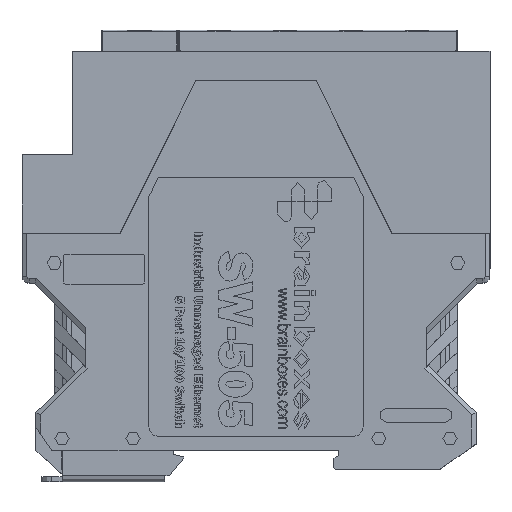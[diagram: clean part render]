
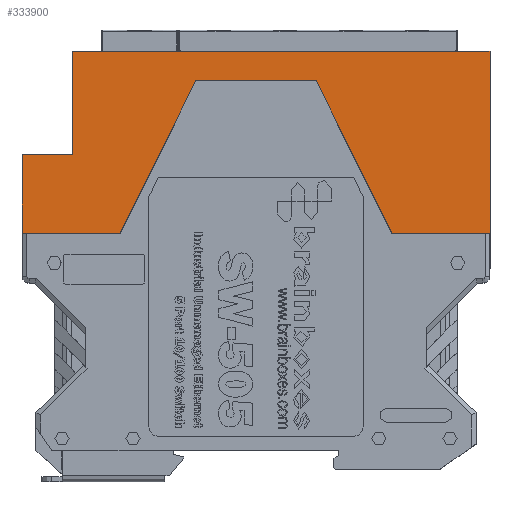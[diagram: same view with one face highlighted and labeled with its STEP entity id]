
A CAD part, top view. The second image highlights one B-rep face of the part: STEP entity #333900.
In plain terms, the highlighted planar face has unit normal (0, 0, 1).
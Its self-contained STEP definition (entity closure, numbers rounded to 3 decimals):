
#329645 = VERTEX_POINT('',#329646);
#329646 = CARTESIAN_POINT('',(45.7,2.4,18.9));
#329652 = EDGE_CURVE('',#329653,#329645,#329655,.T.);
#329653 = VERTEX_POINT('',#329654);
#329654 = CARTESIAN_POINT('',(25.,2.4,18.9));
#329655 = LINE('',#329656,#329657);
#329656 = CARTESIAN_POINT('',(-3.8,2.4,18.9));
#329657 = VECTOR('',#329658,1.);
#329658 = DIRECTION('',(1.,0.,0.));
#330165 = VERTEX_POINT('',#330166);
#330166 = CARTESIAN_POINT('',(-32.6,2.4,18.9));
#330172 = EDGE_CURVE('',#330173,#330165,#330175,.T.);
#330173 = VERTEX_POINT('',#330174);
#330174 = CARTESIAN_POINT('',(-53.3,2.4,18.9));
#330175 = LINE('',#330176,#330177);
#330176 = CARTESIAN_POINT('',(-3.8,2.4,18.9));
#330177 = VECTOR('',#330178,1.);
#330178 = DIRECTION('',(1.,0.,0.));
#330466 = VERTEX_POINT('',#330467);
#330467 = CARTESIAN_POINT('',(-53.3,19.,18.9));
#330475 = EDGE_CURVE('',#330466,#330476,#330478,.T.);
#330476 = VERTEX_POINT('',#330477);
#330477 = CARTESIAN_POINT('',(-42.6,19.,18.9));
#330478 = LINE('',#330479,#330480);
#330479 = CARTESIAN_POINT('',(-3.8,19.,18.9));
#330480 = VECTOR('',#330481,1.);
#330481 = DIRECTION('',(1.,0.,0.));
#330745 = EDGE_CURVE('',#330746,#330476,#330748,.T.);
#330746 = VERTEX_POINT('',#330747);
#330747 = CARTESIAN_POINT('',(-42.6,40.9,18.9));
#330748 = LINE('',#330749,#330750);
#330749 = CARTESIAN_POINT('',(-42.6,-74.1,18.9));
#330750 = VECTOR('',#330751,1.);
#330751 = DIRECTION('',(0.,-1.,-0.));
#332242 = VERTEX_POINT('',#332243);
#332243 = CARTESIAN_POINT('',(45.7,40.9,18.9));
#332249 = EDGE_CURVE('',#329645,#332242,#332250,.T.);
#332250 = LINE('',#332251,#332252);
#332251 = CARTESIAN_POINT('',(45.7,-74.1,18.9));
#332252 = VECTOR('',#332253,1.);
#332253 = DIRECTION('',(0.,1.,0.));
#332407 = VERTEX_POINT('',#332408);
#332408 = CARTESIAN_POINT('',(-16.553,34.6,18.9));
#332425 = VERTEX_POINT('',#332426);
#332426 = CARTESIAN_POINT('',(8.953,34.6,18.9));
#332432 = EDGE_CURVE('',#332425,#332407,#332433,.T.);
#332433 = LINE('',#332434,#332435);
#332434 = CARTESIAN_POINT('',(-3.8,34.6,18.9));
#332435 = VECTOR('',#332436,1.);
#332436 = DIRECTION('',(-1.,0.,0.));
#332718 = EDGE_CURVE('',#330466,#330173,#332719,.T.);
#332719 = LINE('',#332720,#332721);
#332720 = CARTESIAN_POINT('',(-53.3,-74.1,18.9));
#332721 = VECTOR('',#332722,1.);
#332722 = DIRECTION('',(0.,-1.,0.));
#333131 = EDGE_CURVE('',#329653,#332425,#333132,.T.);
#333132 = LINE('',#333133,#333134);
#333133 = CARTESIAN_POINT('',(63.125,-74.1,18.9));
#333134 = VECTOR('',#333135,1.);
#333135 = DIRECTION('',(-0.446,0.895,0.));
#333160 = EDGE_CURVE('',#330746,#332242,#333161,.T.);
#333161 = LINE('',#333162,#333163);
#333162 = CARTESIAN_POINT('',(-3.8,40.9,18.9));
#333163 = VECTOR('',#333164,1.);
#333164 = DIRECTION('',(1.,0.,0.));
#333231 = EDGE_CURVE('',#330165,#332407,#333232,.T.);
#333232 = LINE('',#333233,#333234);
#333233 = CARTESIAN_POINT('',(-70.725,-74.1,18.9));
#333234 = VECTOR('',#333235,1.);
#333235 = DIRECTION('',(0.446,0.895,0.));
#333900 = ADVANCED_FACE('',(#333901),#333913,.T.);
#333901 = FACE_BOUND('',#333902,.T.);
#333902 = EDGE_LOOP('',(#333903,#333904,#333905,#333906,#333907,#333908,
    #333909,#333910,#333911,#333912));
#333903 = ORIENTED_EDGE('',*,*,#332249,.T.);
#333904 = ORIENTED_EDGE('',*,*,#333160,.F.);
#333905 = ORIENTED_EDGE('',*,*,#330745,.T.);
#333906 = ORIENTED_EDGE('',*,*,#330475,.F.);
#333907 = ORIENTED_EDGE('',*,*,#332718,.T.);
#333908 = ORIENTED_EDGE('',*,*,#330172,.T.);
#333909 = ORIENTED_EDGE('',*,*,#333231,.T.);
#333910 = ORIENTED_EDGE('',*,*,#332432,.F.);
#333911 = ORIENTED_EDGE('',*,*,#333131,.F.);
#333912 = ORIENTED_EDGE('',*,*,#329652,.T.);
#333913 = PLANE('',#333914);
#333914 = AXIS2_PLACEMENT_3D('',#333915,#333916,#333917);
#333915 = CARTESIAN_POINT('',(-3.8,2.4,18.9));
#333916 = DIRECTION('',(0.,0.,1.));
#333917 = DIRECTION('',(0.,-1.,0.));
